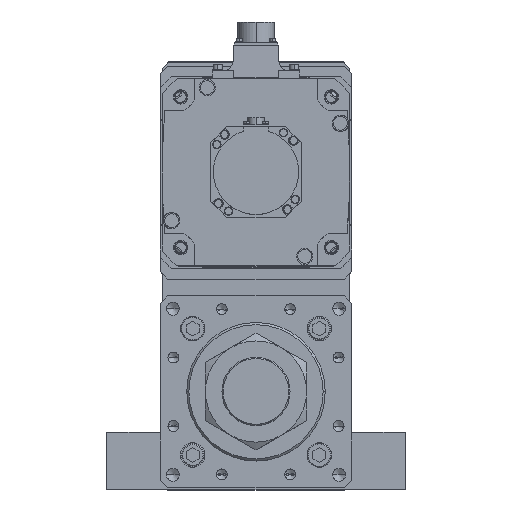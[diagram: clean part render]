
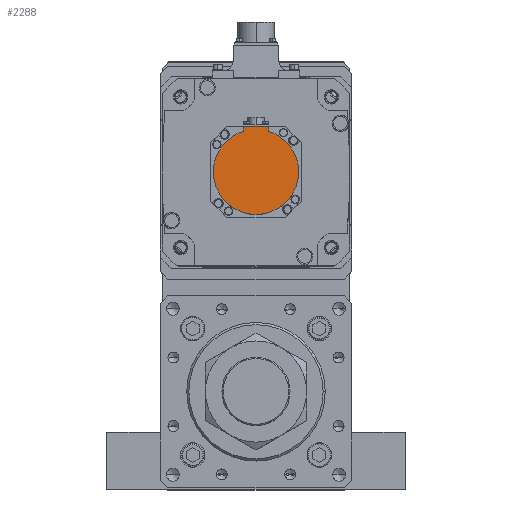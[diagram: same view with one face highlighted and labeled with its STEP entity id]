
A CAD part, top view. The second image highlights one B-rep face of the part: STEP entity #2288.
In plain terms, the highlighted planar face has unit normal (0, 0, 1) as drawn and (0, 0, -1) by its records, which use the part's own axes.
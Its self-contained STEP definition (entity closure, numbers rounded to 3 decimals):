
#21 = DIRECTION ( 'NONE',  ( 0., 0., 1. ) ) ;
#373 = EDGE_CURVE ( 'NONE', #38479, #37232, #27010, .T. ) ;
#378 = CARTESIAN_POINT ( 'NONE',  ( 0., -1.249, -178.5 ) ) ;
#2288 = ADVANCED_FACE ( 'NONE', ( #34601 ), #36904, .F. ) ;
#3900 = ORIENTED_EDGE ( 'NONE', *, *, #52685, .F. ) ;
#9967 = AXIS2_PLACEMENT_3D ( 'NONE', #19291, #48334, #52496 ) ;
#12186 = VERTEX_POINT ( 'NONE', #45260 ) ;
#14145 = EDGE_CURVE ( 'NONE', #12186, #15993, #15073, .T. ) ;
#14508 = CARTESIAN_POINT ( 'NONE',  ( 0., 0., -178.5 ) ) ;
#15073 = LINE ( 'NONE', #52909, #20276 ) ;
#15993 = VERTEX_POINT ( 'NONE', #19518 ) ;
#16465 = VECTOR ( 'NONE', #40481, 1000. ) ;
#18695 = VECTOR ( 'NONE', #24959, 1000. ) ;
#19210 = DIRECTION ( 'NONE',  ( 0., 0., 1. ) ) ;
#19291 = CARTESIAN_POINT ( 'NONE',  ( 0., 0., -178.5 ) ) ;
#19352 = VERTEX_POINT ( 'NONE', #50301 ) ;
#19518 = CARTESIAN_POINT ( 'NONE',  ( -12., -42.5, -178.5 ) ) ;
#20276 = VECTOR ( 'NONE', #48398, 1000. ) ;
#20653 = DIRECTION ( 'NONE',  ( 1., 0., 0. ) ) ;
#21788 = ORIENTED_EDGE ( 'NONE', *, *, #31558, .F. ) ;
#22270 = CARTESIAN_POINT ( 'NONE',  ( 12., -38.158, -178.5 ) ) ;
#24342 = CARTESIAN_POINT ( 'NONE',  ( -12., -38.158, -178.5 ) ) ;
#24959 = DIRECTION ( 'NONE',  ( 0., 1., 0. ) ) ;
#26270 = AXIS2_PLACEMENT_3D ( 'NONE', #47439, #47086, #38663 ) ;
#27010 = CIRCLE ( 'NONE', #26270, 40. ) ;
#27742 = LINE ( 'NONE', #50327, #18695 ) ;
#28014 = EDGE_CURVE ( 'NONE', #12186, #39543, #27742, .T. ) ;
#31510 = EDGE_CURVE ( 'NONE', #15993, #37232, #39785, .T. ) ;
#31558 = EDGE_CURVE ( 'NONE', #19352, #38479, #48173, .T. ) ;
#32001 = CARTESIAN_POINT ( 'NONE',  ( -12., -40.329, -178.5 ) ) ;
#33118 = EDGE_LOOP ( 'NONE', ( #45654, #40350, #21788, #3900, #44225, #52588 ) ) ;
#34178 = CIRCLE ( 'NONE', #43197, 40. ) ;
#34601 = FACE_OUTER_BOUND ( 'NONE', #33118, .T. ) ;
#35300 = DIRECTION ( 'NONE',  ( 1., 0., 0. ) ) ;
#36848 = CARTESIAN_POINT ( 'NONE',  ( -40., 0., -178.5 ) ) ;
#36904 = PLANE ( 'NONE',  #47598 ) ;
#37232 = VERTEX_POINT ( 'NONE', #24342 ) ;
#38479 = VERTEX_POINT ( 'NONE', #36848 ) ;
#38663 = DIRECTION ( 'NONE',  ( 1., 0., 0. ) ) ;
#39543 = VERTEX_POINT ( 'NONE', #22270 ) ;
#39785 = LINE ( 'NONE', #32001, #16465 ) ;
#40350 = ORIENTED_EDGE ( 'NONE', *, *, #373, .F. ) ;
#40481 = DIRECTION ( 'NONE',  ( 0., 1., 0. ) ) ;
#43197 = AXIS2_PLACEMENT_3D ( 'NONE', #14508, #19210, #35300 ) ;
#44225 = ORIENTED_EDGE ( 'NONE', *, *, #28014, .F. ) ;
#45260 = CARTESIAN_POINT ( 'NONE',  ( 12., -42.5, -178.5 ) ) ;
#45654 = ORIENTED_EDGE ( 'NONE', *, *, #31510, .T. ) ;
#47086 = DIRECTION ( 'NONE',  ( 0., 0., 1. ) ) ;
#47439 = CARTESIAN_POINT ( 'NONE',  ( 0., 0., -178.5 ) ) ;
#47598 = AXIS2_PLACEMENT_3D ( 'NONE', #378, #21, #20653 ) ;
#48173 = CIRCLE ( 'NONE', #9967, 40. ) ;
#48334 = DIRECTION ( 'NONE',  ( 0., 0., 1. ) ) ;
#48398 = DIRECTION ( 'NONE',  ( -1., 0., 0. ) ) ;
#50301 = CARTESIAN_POINT ( 'NONE',  ( 40., 0., -178.5 ) ) ;
#50327 = CARTESIAN_POINT ( 'NONE',  ( 12., -1.249, -178.5 ) ) ;
#52496 = DIRECTION ( 'NONE',  ( 1., 0., 0. ) ) ;
#52588 = ORIENTED_EDGE ( 'NONE', *, *, #14145, .T. ) ;
#52685 = EDGE_CURVE ( 'NONE', #39543, #19352, #34178, .T. ) ;
#52909 = CARTESIAN_POINT ( 'NONE',  ( 0., -42.5, -178.5 ) ) ;
